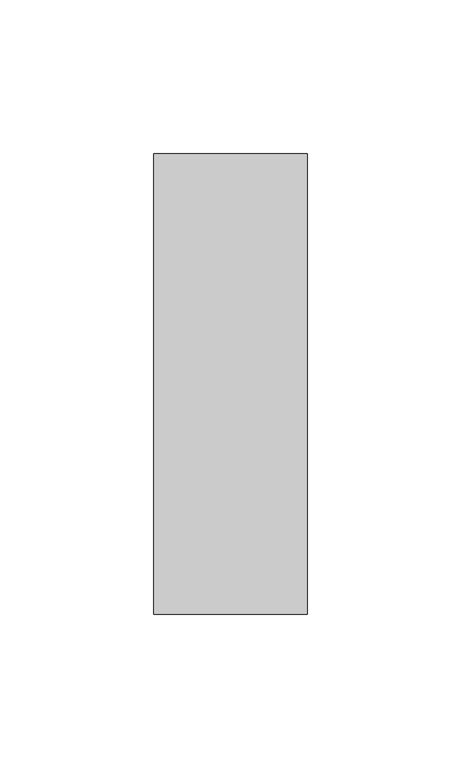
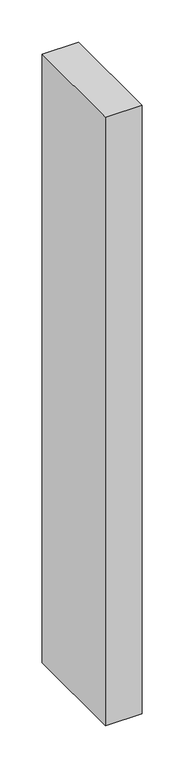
"""IFC4 building model written with IfcOpenShell, lengths in millimetres: member geometry, Прямоугольный импост : 50 x 150 мм."""

from ifc_helpers import new_model, si_unit, frame, origin, place, context, project, spatial, polyline, outline, extrude, source, transform, mapped, element, save


def member_0c8ab3b8(model_context):
    return source(origin(), model_context, "Body", "SweptSolid", [
        extrude(outline(polyline([(25.0, 75.0), (25.0, -75.0), (-25.0, -75.0), (-25.0, 75.0), (25.0, 75.0)])), frame((0.0, 0.0, -880.2756435), z_axis=(0.0, 0.0, 1.0), x_axis=(1.0, 0.0, 0.0)), (0.0, 0.0, 1.0), 880.2756435),
    ])


if __name__ == "__main__":
    model = new_model("IFC4")
    model_context = context("Model", 3, world=origin())
    ifc_project = project(units=[si_unit("LENGTHUNIT", "METRE", prefix="MILLI")], contexts=[model_context])
    site = spatial("IfcSite", under=ifc_project)
    building = spatial("IfcBuilding", under=site)
    placement = place(None, origin())
    member_shape = member_0c8ab3b8(model_context)
    element("IfcMember", 1, ObjectType="Прямоугольный импост : 50 x 150 мм", at=placement, inside=building, context=model_context, shape_type="MappedRepresentation", body=[
        mapped(member_shape, transform((0.0, 0.0, 0.0), x_axis=(1.0, 0.0, 0.0), y_axis=(0.0, 1.0, 0.0), z_axis=(0.0, 0.0, 1.0))),
    ])
    save(model, "model.ifc")
